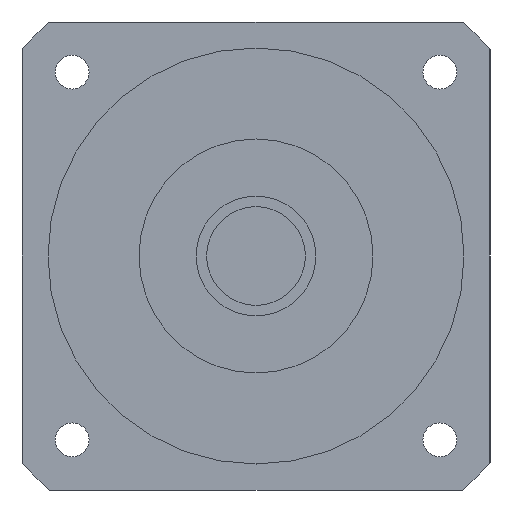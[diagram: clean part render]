
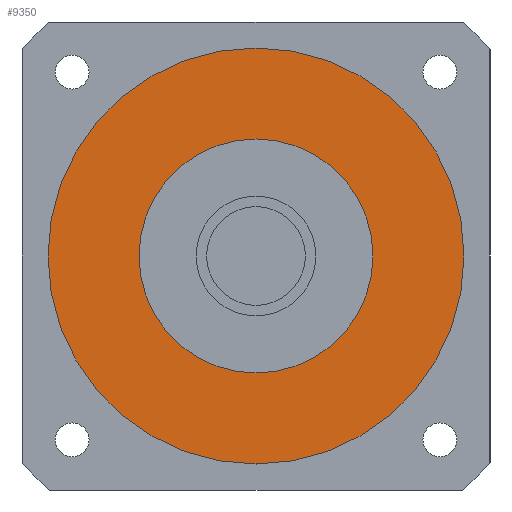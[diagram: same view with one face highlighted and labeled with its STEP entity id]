
A CAD part, left-side view. The second image highlights one B-rep face of the part: STEP entity #9350.
In plain terms, the highlighted planar face has unit normal (-1, 0, 0) as drawn and (0, 0, -1) by its records, which use the part's own axes.
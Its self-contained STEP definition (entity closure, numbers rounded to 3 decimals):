
#8830=CARTESIAN_POINT('',(0.,-22.5,-54.2));
#8840=VERTEX_POINT('',#8830);
#8870=CARTESIAN_POINT('',(0.,0.,
-54.2));
#8880=DIRECTION('',(0.,0.,1.));
#8890=DIRECTION('',(0.,1.,0.));
#8900=AXIS2_PLACEMENT_3D('',#8870,#8880,#8890);
#8910=CIRCLE('',#8900,22.5);
#8920=CARTESIAN_POINT('',(0.,22.5,-54.2));
#8930=VERTEX_POINT('',#8920);
#8940=EDGE_CURVE('',#8840,#8930,#8910,.T.);
#9060=CARTESIAN_POINT('',(0.,0.,
-54.2));
#9070=DIRECTION('',(0.,0.,1.));
#9080=DIRECTION('',(0.,1.,0.));
#9090=AXIS2_PLACEMENT_3D('',#9060,#9070,#9080);
#9100=PLANE('',#9090);
#9110=EDGE_CURVE('',#8930,#8840,#8910,.T.);
#9120=ORIENTED_EDGE('',*,*,#9110,.T.);
#9130=ORIENTED_EDGE('',*,*,#8940,.T.);
#9140=EDGE_LOOP('',(#9130,#9120));
#9150=FACE_BOUND('',#9140,.T.);
#9160=CARTESIAN_POINT('',(0.,0.,
-54.2));
#9170=DIRECTION('',(0.,0.,1.));
#9180=DIRECTION('',(1.,0.,0.));
#9190=AXIS2_PLACEMENT_3D('',#9160,#9170,#9180);
#9200=CIRCLE('',#9190,40.);
#9210=CARTESIAN_POINT('',(40.,0.,-54.2));
#9220=VERTEX_POINT('',#9210);
#9230=CARTESIAN_POINT('',(0.,40.,-54.2));
#9240=VERTEX_POINT('',#9230);
#9250=EDGE_CURVE('',#9220,#9240,#9200,.T.);
#9260=ORIENTED_EDGE('',*,*,#9250,.F.);
#9270=CARTESIAN_POINT('',(0.,-40.,-54.2));
#9280=VERTEX_POINT('',#9270);
#9290=EDGE_CURVE('',#9240,#9280,#9200,.T.);
#9300=ORIENTED_EDGE('',*,*,#9290,.F.);
#9310=EDGE_CURVE('',#9280,#9220,#9200,.T.);
#9320=ORIENTED_EDGE('',*,*,#9310,.F.);
#9330=EDGE_LOOP('',(#9320,#9300,#9260));
#9340=FACE_OUTER_BOUND('',#9330,.T.);
#9350=ADVANCED_FACE('',(#9150,#9340),#9100,.F.);
